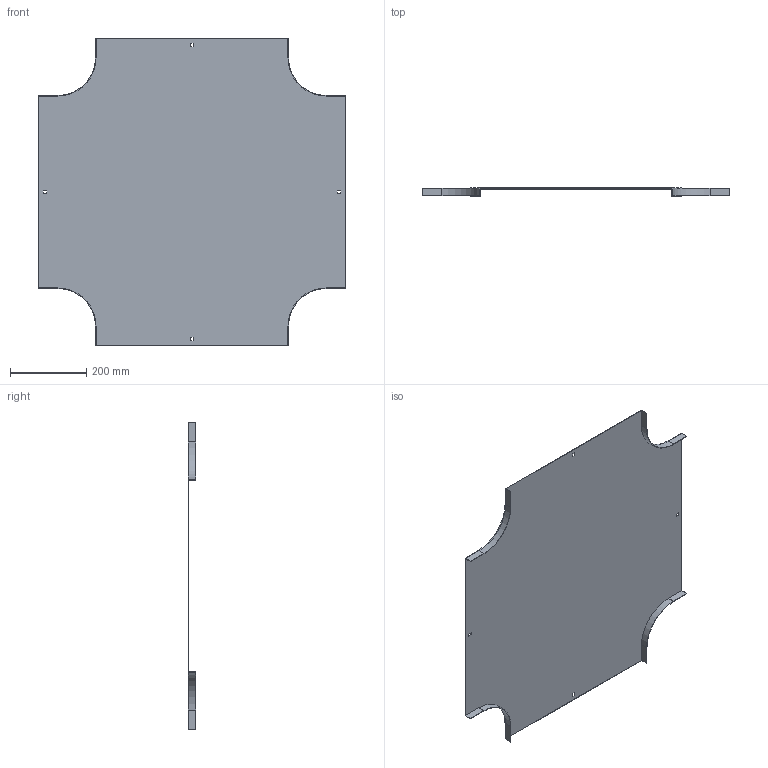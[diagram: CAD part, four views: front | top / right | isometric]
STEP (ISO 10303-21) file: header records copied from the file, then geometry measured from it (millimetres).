
FILE_DESCRIPTION (( 'STEP AP214' ), '1' );
FILE_NAME ('17N1R500.step', '2025-02-21T09:53:00', ( '' ), ( '' ), 'SwSTEP 2.0', 'SolidWorks 2023', '' );
FILE_SCHEMA (( 'AUTOMOTIVE_DESIGN' ));
Length unit declared in the file: millimetre
Products named in the file (1): 17N1R500
Bounding box: 804 x 20 x 804 mm (x, y, z)
Volume: 877857.3 mm3; surface area: 1175454.7 mm2
Topology: 1 solids, 1 shells, 50 faces, 144 edges, 96 vertices
Faces by surface type: plane 42, cylinder 8
Entity records: 1663 total; most frequent: CARTESIAN_POINT 291, ORIENTED_EDGE 288, DIRECTION 262, EDGE_CURVE 144, VECTOR 128, LINE 128, VERTEX_POINT 96, AXIS2_PLACEMENT_3D 67
